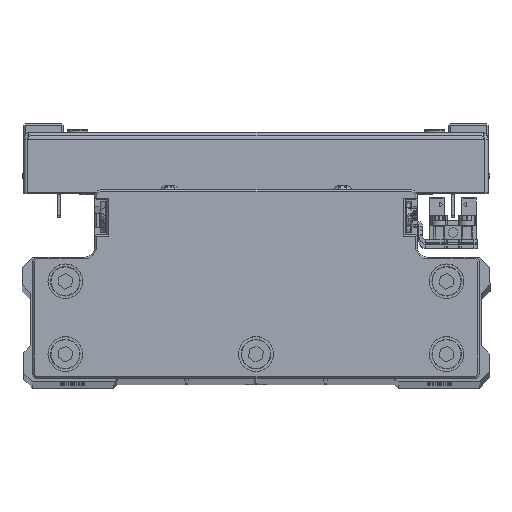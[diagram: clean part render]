
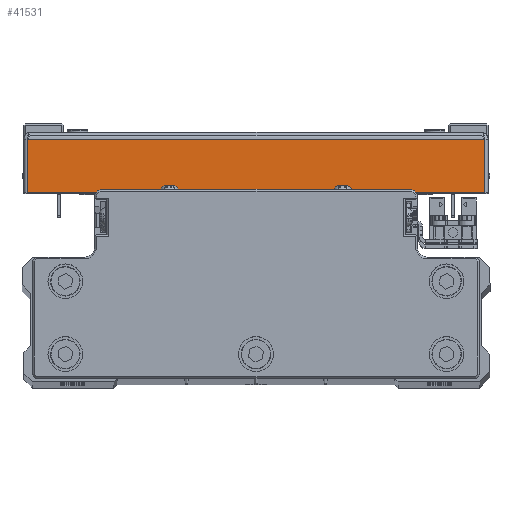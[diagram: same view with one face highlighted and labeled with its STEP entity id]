
A CAD part, top view. The second image highlights one B-rep face of the part: STEP entity #41531.
In plain terms, the highlighted planar face has unit normal (0, 0, 1) as drawn and (1, 0, 0) by its records, which use the part's own axes.
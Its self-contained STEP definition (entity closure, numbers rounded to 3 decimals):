
#1811 = DIRECTION ( 'NONE',  ( 0., -1., 0. ) ) ;
#5162 = PLANE ( 'NONE',  #19252 ) ;
#6708 = ORIENTED_EDGE ( 'NONE', *, *, #42614, .F. ) ;
#7243 = LINE ( 'NONE', #20832, #12918 ) ;
#7396 = CARTESIAN_POINT ( 'NONE',  ( 75., 0., 65.929 ) ) ;
#8478 = CARTESIAN_POINT ( 'NONE',  ( 75., 1., -65.929 ) ) ;
#8692 = ORIENTED_EDGE ( 'NONE', *, *, #35481, .T. ) ;
#9014 = VERTEX_POINT ( 'NONE', #28119 ) ;
#10127 = EDGE_CURVE ( 'NONE', #23146, #41918, #27691, .T. ) ;
#10773 = DIRECTION ( 'NONE',  ( 0., 1., 0. ) ) ;
#12310 = LINE ( 'NONE', #25894, #12431 ) ;
#12431 = VECTOR ( 'NONE', #39489, 1000. ) ;
#12918 = VECTOR ( 'NONE', #34393, 1000. ) ;
#17061 = VERTEX_POINT ( 'NONE', #24888 ) ;
#17823 = EDGE_CURVE ( 'NONE', #17061, #9014, #37928, .T. ) ;
#18735 = CARTESIAN_POINT ( 'NONE',  ( 75., 0., 0. ) ) ;
#19252 = AXIS2_PLACEMENT_3D ( 'NONE', #18735, #32325, #1811 ) ;
#20832 = CARTESIAN_POINT ( 'NONE',  ( 75., 1., 67. ) ) ;
#20985 = DIRECTION ( 'NONE',  ( 0., 1., 0. ) ) ;
#22036 = CARTESIAN_POINT ( 'NONE',  ( 75., 16.5, -65.929 ) ) ;
#23146 = VERTEX_POINT ( 'NONE', #8478 ) ;
#24888 = CARTESIAN_POINT ( 'NONE',  ( 75., 1., 65.929 ) ) ;
#25894 = CARTESIAN_POINT ( 'NONE',  ( 75., 16.5, 0. ) ) ;
#27691 = LINE ( 'NONE', #41310, #38358 ) ;
#28119 = CARTESIAN_POINT ( 'NONE',  ( 75., 16.5, 65.929 ) ) ;
#32325 = DIRECTION ( 'NONE',  ( -1., 0., 0. ) ) ;
#34393 = DIRECTION ( 'NONE',  ( 0., 0., 1. ) ) ;
#35481 = EDGE_CURVE ( 'NONE', #41918, #9014, #12310, .T. ) ;
#35650 = ORIENTED_EDGE ( 'NONE', *, *, #17823, .F. ) ;
#35691 = FACE_OUTER_BOUND ( 'NONE', #41135, .T. ) ;
#37928 = LINE ( 'NONE', #7396, #41201 ) ;
#38358 = VECTOR ( 'NONE', #10773, 1000. ) ;
#39489 = DIRECTION ( 'NONE',  ( 0., 0., 1. ) ) ;
#41135 = EDGE_LOOP ( 'NONE', ( #6708, #43621, #8692, #35650 ) ) ;
#41201 = VECTOR ( 'NONE', #20985, 1000. ) ;
#41310 = CARTESIAN_POINT ( 'NONE',  ( 75., 0., -65.929 ) ) ;
#41531 = ADVANCED_FACE ( 'NONE', ( #35691 ), #5162, .F. ) ;
#41918 = VERTEX_POINT ( 'NONE', #22036 ) ;
#42614 = EDGE_CURVE ( 'NONE', #23146, #17061, #7243, .T. ) ;
#43621 = ORIENTED_EDGE ( 'NONE', *, *, #10127, .T. ) ;
